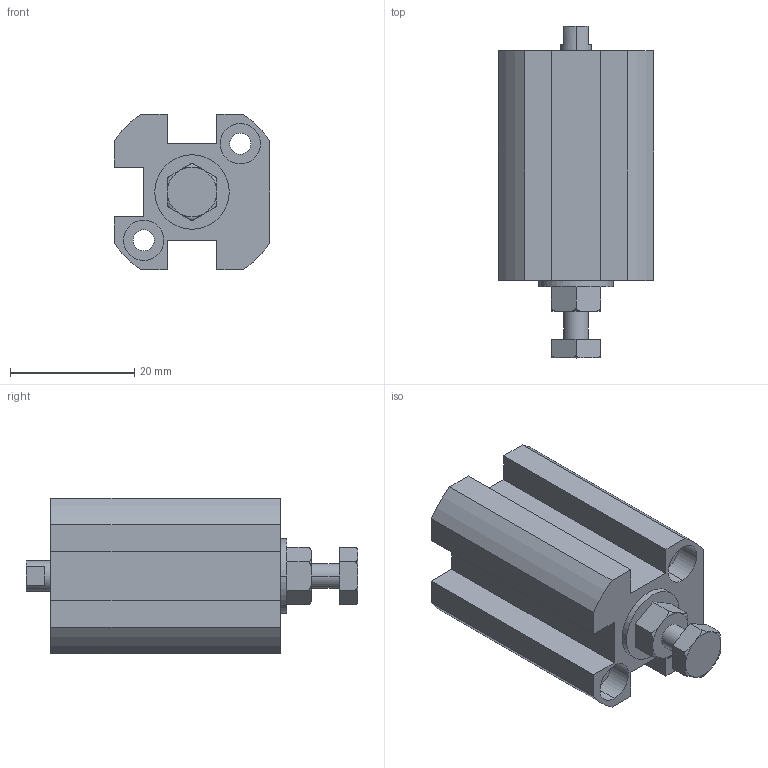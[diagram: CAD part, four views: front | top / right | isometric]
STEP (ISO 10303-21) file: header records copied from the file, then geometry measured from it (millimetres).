
FILE_DESCRIPTION (( 'STEP AP203' ), '1' );
FILE_NAME ('XGA2-10-10.STEP', '2016-05-24T02:39:14', ( '' ), ( '' ), 'SwSTEP 2.0', 'SolidWorks 2014', '' );
FILE_SCHEMA (( 'CONFIG_CONTROL_DESIGN' ));
Length unit declared in the file: millimetre
Products named in the file (3): XG#2-10-10; X#A2-10-H; XGA2-10-10
Assembly tree (2 placements, depth 2):
  XGA2-10-10
    XG#2-10-10
    X#A2-10-H
Bounding box: 25 x 53.5 x 25 mm (x, y, z)
Volume: 16823.9 mm3; surface area: 7434.1 mm2
Topology: 2 solids, 2 shells, 109 faces, 259 edges, 165 vertices
Faces by surface type: plane 50, cylinder 43, torus 12, cone 4
Entity records: 3669 total; most frequent: CARTESIAN_POINT 806, DIRECTION 562, ORIENTED_EDGE 510, EDGE_CURVE 255, AXIS2_PLACEMENT_3D 217, VERTEX_POINT 165, EDGE_LOOP 128, VECTOR 128
